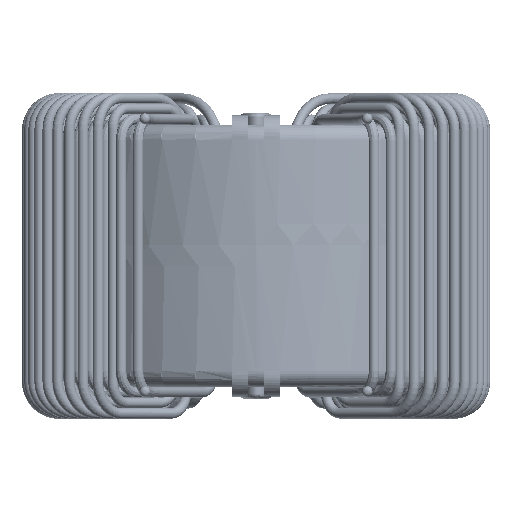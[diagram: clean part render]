
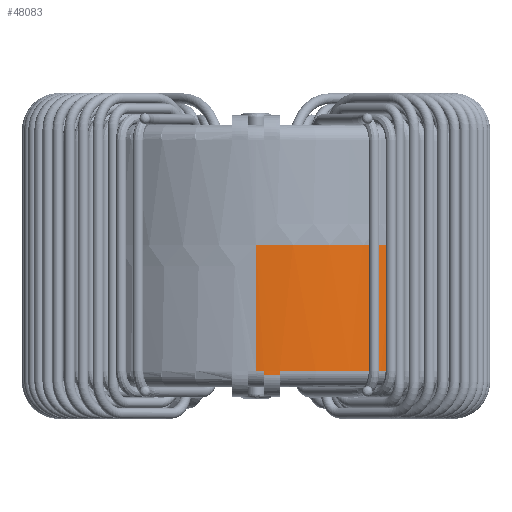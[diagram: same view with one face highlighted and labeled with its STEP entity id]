
A CAD part, top view. The second image highlights one B-rep face of the part: STEP entity #48083.
In plain terms, the highlighted cylindrical face has radius 10.053 mm (diameter 20.106 mm), a partial arc.
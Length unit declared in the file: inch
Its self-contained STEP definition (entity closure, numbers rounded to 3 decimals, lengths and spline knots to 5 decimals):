
#1760 = EDGE_CURVE ( 'NONE', #21013, #34829, #10732, .T. ) ;
#2291 = CARTESIAN_POINT ( 'NONE',  ( 0., 0.24359, -0.39579 ) ) ;
#3947 = LINE ( 'NONE', #2291, #34506 ) ;
#4058 = AXIS2_PLACEMENT_3D ( 'NONE', #59749, #63126, #64843 ) ;
#5142 = AXIS2_PLACEMENT_3D ( 'NONE', #12961, #72053, #75554 ) ;
#6831 = DIRECTION ( 'NONE',  ( 0., -1., 0. ) ) ;
#9874 = VECTOR ( 'NONE', #49337, 39.37008 ) ;
#9901 = EDGE_CURVE ( 'NONE', #35635, #19866, #71191, .T. ) ;
#9982 = VECTOR ( 'NONE', #82558, 39.37008 ) ;
#10732 = LINE ( 'NONE', #58031, #36166 ) ;
#11044 = DIRECTION ( 'NONE',  ( 0., 0., 1. ) ) ;
#12167 = ORIENTED_EDGE ( 'NONE', *, *, #47956, .F. ) ;
#12961 = CARTESIAN_POINT ( 'NONE',  ( 0., 0.02008, 0. ) ) ;
#13868 = LINE ( 'NONE', #66240, #9874 ) ;
#13990 = CARTESIAN_POINT ( 'NONE',  ( 0., -0.22146, 0. ) ) ;
#15167 = VECTOR ( 'NONE', #52028, 39.37008 ) ;
#17733 = CARTESIAN_POINT ( 'NONE',  ( 0., 0.02008, 0.39579 ) ) ;
#17931 = DIRECTION ( 'NONE',  ( 0., 0., -1. ) ) ;
#18011 = CIRCLE ( 'NONE', #5142, 0.39579 ) ;
#18065 = VECTOR ( 'NONE', #25608, 39.37008 ) ;
#19866 = VERTEX_POINT ( 'NONE', #54133 ) ;
#21013 = VERTEX_POINT ( 'NONE', #60454 ) ;
#21222 = CARTESIAN_POINT ( 'NONE',  ( 0.04429, -0.22146, 0.39331 ) ) ;
#21239 = CARTESIAN_POINT ( 'NONE',  ( 0., 0.01969, 0.39579 ) ) ;
#22110 = AXIS2_PLACEMENT_3D ( 'NONE', #13990, #42708, #66347 ) ;
#23428 = VERTEX_POINT ( 'NONE', #40174 ) ;
#23454 = CARTESIAN_POINT ( 'NONE',  ( 0., 0.02008, -0.39579 ) ) ;
#25494 = ORIENTED_EDGE ( 'NONE', *, *, #9901, .T. ) ;
#25608 = DIRECTION ( 'NONE',  ( 0., -1., 0. ) ) ;
#27968 = EDGE_CURVE ( 'NONE', #91661, #51738, #38881, .T. ) ;
#31236 = EDGE_CURVE ( 'NONE', #91661, #60292, #18011, .T. ) ;
#31784 = EDGE_CURVE ( 'NONE', #19866, #58916, #62851, .T. ) ;
#33125 = DIRECTION ( 'NONE',  ( 0., 0., 1. ) ) ;
#34506 = VECTOR ( 'NONE', #61414, 39.37008 ) ;
#34829 = VERTEX_POINT ( 'NONE', #94317 ) ;
#35085 = LINE ( 'NONE', #97572, #15167 ) ;
#35552 = EDGE_CURVE ( 'NONE', #99614, #35635, #85493, .T. ) ;
#35635 = VERTEX_POINT ( 'NONE', #87419 ) ;
#36166 = VECTOR ( 'NONE', #39393, 39.37008 ) ;
#36739 = ORIENTED_EDGE ( 'NONE', *, *, #66547, .F. ) ;
#38881 = LINE ( 'NONE', #97976, #57276 ) ;
#39313 = LINE ( 'NONE', #100084, #103347 ) ;
#39393 = DIRECTION ( 'NONE',  ( 0., -1., 0. ) ) ;
#40174 = CARTESIAN_POINT ( 'NONE',  ( 0., 0.01969, -0.39579 ) ) ;
#40178 = EDGE_LOOP ( 'NONE', ( #60849, #99884, #92084, #47570, #25494, #66245, #36739, #48158, #76289, #81022, #46105, #103551, #12167, #50501 ) ) ;
#40285 = CARTESIAN_POINT ( 'NONE',  ( 0., 0.24359, -0.39579 ) ) ;
#42043 = AXIS2_PLACEMENT_3D ( 'NONE', #66735, #70127, #11044 ) ;
#42708 = DIRECTION ( 'NONE',  ( 0., 1., 0. ) ) ;
#42832 = EDGE_CURVE ( 'NONE', #68295, #34829, #55206, .T. ) ;
#46105 = ORIENTED_EDGE ( 'NONE', *, *, #1760, .F. ) ;
#47570 = ORIENTED_EDGE ( 'NONE', *, *, #35552, .T. ) ;
#47956 = EDGE_CURVE ( 'NONE', #23428, #101785, #3947, .T. ) ;
#48083 = ADVANCED_FACE ( 'NONE', ( #51758 ), #88934, .T. ) ;
#48158 = ORIENTED_EDGE ( 'NONE', *, *, #59880, .T. ) ;
#48805 = EDGE_CURVE ( 'NONE', #51738, #99614, #13868, .T. ) ;
#49337 = DIRECTION ( 'NONE',  ( 0., -1., 0. ) ) ;
#50177 = DIRECTION ( 'NONE',  ( 0., 1., 0. ) ) ;
#50501 = ORIENTED_EDGE ( 'NONE', *, *, #52747, .F. ) ;
#51738 = VERTEX_POINT ( 'NONE', #21239 ) ;
#51758 = FACE_OUTER_BOUND ( 'NONE', #40178, .T. ) ;
#52028 = DIRECTION ( 'NONE',  ( 0., -1., 0. ) ) ;
#52747 = EDGE_CURVE ( 'NONE', #60292, #23428, #84220, .T. ) ;
#54133 = CARTESIAN_POINT ( 'NONE',  ( 0.01476, -0.22146, 0.39552 ) ) ;
#55054 = DIRECTION ( 'NONE',  ( 0., 1., 0. ) ) ;
#55206 = CIRCLE ( 'NONE', #75250, 0.39579 ) ;
#57276 = VECTOR ( 'NONE', #6831, 39.37008 ) ;
#58031 = CARTESIAN_POINT ( 'NONE',  ( 0.01476, 0.26083, -0.39552 ) ) ;
#58916 = VERTEX_POINT ( 'NONE', #21222 ) ;
#59749 = CARTESIAN_POINT ( 'NONE',  ( 0., -0.21406, 0. ) ) ;
#59880 = EDGE_CURVE ( 'NONE', #67364, #101262, #64078, .T. ) ;
#60292 = VERTEX_POINT ( 'NONE', #23454 ) ;
#60454 = CARTESIAN_POINT ( 'NONE',  ( 0.01476, -0.21406, -0.39552 ) ) ;
#60806 = CIRCLE ( 'NONE', #42043, 0.39579 ) ;
#60849 = ORIENTED_EDGE ( 'NONE', *, *, #31236, .F. ) ;
#61414 = DIRECTION ( 'NONE',  ( 0., -1., 0. ) ) ;
#62851 = CIRCLE ( 'NONE', #22110, 0.39579 ) ;
#63126 = DIRECTION ( 'NONE',  ( 0., 1., 0. ) ) ;
#64078 = CIRCLE ( 'NONE', #86085, 0.39579 ) ;
#64506 = CARTESIAN_POINT ( 'NONE',  ( 0.01476, 0.26083, 0.39552 ) ) ;
#64843 = DIRECTION ( 'NONE',  ( 0., 0., 1. ) ) ;
#65489 = EDGE_CURVE ( 'NONE', #101262, #68295, #35085, .T. ) ;
#66240 = CARTESIAN_POINT ( 'NONE',  ( 0., 0.24359, 0.39579 ) ) ;
#66245 = ORIENTED_EDGE ( 'NONE', *, *, #31784, .T. ) ;
#66347 = DIRECTION ( 'NONE',  ( 0., 0., -1. ) ) ;
#66547 = EDGE_CURVE ( 'NONE', #67364, #58916, #39313, .T. ) ;
#66735 = CARTESIAN_POINT ( 'NONE',  ( 0., -0.21406, 0. ) ) ;
#66940 = CARTESIAN_POINT ( 'NONE',  ( 0., 0.24359, 0. ) ) ;
#67364 = VERTEX_POINT ( 'NONE', #102008 ) ;
#68295 = VERTEX_POINT ( 'NONE', #70546 ) ;
#70127 = DIRECTION ( 'NONE',  ( 0., 1., 0. ) ) ;
#70546 = CARTESIAN_POINT ( 'NONE',  ( 0.04429, -0.22146, -0.39331 ) ) ;
#71191 = LINE ( 'NONE', #64506, #18065 ) ;
#72053 = DIRECTION ( 'NONE',  ( 0., 1., 0. ) ) ;
#75250 = AXIS2_PLACEMENT_3D ( 'NONE', #95739, #50177, #102541 ) ;
#75554 = DIRECTION ( 'NONE',  ( 0., 0., 1. ) ) ;
#76289 = ORIENTED_EDGE ( 'NONE', *, *, #65489, .T. ) ;
#81022 = ORIENTED_EDGE ( 'NONE', *, *, #42832, .T. ) ;
#82558 = DIRECTION ( 'NONE',  ( 0., -1., 0. ) ) ;
#84220 = LINE ( 'NONE', #40285, #9982 ) ;
#84998 = DIRECTION ( 'NONE',  ( 0., -1., 0. ) ) ;
#85493 = CIRCLE ( 'NONE', #4058, 0.39579 ) ;
#86085 = AXIS2_PLACEMENT_3D ( 'NONE', #87150, #55054, #33125 ) ;
#87150 = CARTESIAN_POINT ( 'NONE',  ( 0., -0.21406, 0. ) ) ;
#87419 = CARTESIAN_POINT ( 'NONE',  ( 0.01476, -0.21406, 0.39552 ) ) ;
#88934 = CYLINDRICAL_SURFACE ( 'NONE', #99052, 0.39579 ) ;
#89175 = CARTESIAN_POINT ( 'NONE',  ( 0., -0.21406, 0.39579 ) ) ;
#91299 = EDGE_CURVE ( 'NONE', #21013, #101785, #60806, .T. ) ;
#91661 = VERTEX_POINT ( 'NONE', #17733 ) ;
#92084 = ORIENTED_EDGE ( 'NONE', *, *, #48805, .T. ) ;
#93917 = CARTESIAN_POINT ( 'NONE',  ( 0., -0.21406, -0.39579 ) ) ;
#94317 = CARTESIAN_POINT ( 'NONE',  ( 0.01476, -0.22146, -0.39552 ) ) ;
#95739 = CARTESIAN_POINT ( 'NONE',  ( 0., -0.22146, 0. ) ) ;
#96754 = CARTESIAN_POINT ( 'NONE',  ( 0.04429, -0.21406, -0.39331 ) ) ;
#97318 = DIRECTION ( 'NONE',  ( 0., -1., 0. ) ) ;
#97572 = CARTESIAN_POINT ( 'NONE',  ( 0.04429, 0.26083, -0.39331 ) ) ;
#97976 = CARTESIAN_POINT ( 'NONE',  ( 0., 0.24359, 0.39579 ) ) ;
#99052 = AXIS2_PLACEMENT_3D ( 'NONE', #66940, #97318, #17931 ) ;
#99614 = VERTEX_POINT ( 'NONE', #89175 ) ;
#99884 = ORIENTED_EDGE ( 'NONE', *, *, #27968, .T. ) ;
#100084 = CARTESIAN_POINT ( 'NONE',  ( 0.04429, 0.26083, 0.39331 ) ) ;
#101262 = VERTEX_POINT ( 'NONE', #96754 ) ;
#101785 = VERTEX_POINT ( 'NONE', #93917 ) ;
#102008 = CARTESIAN_POINT ( 'NONE',  ( 0.04429, -0.21406, 0.39331 ) ) ;
#102541 = DIRECTION ( 'NONE',  ( 0., 0., 1. ) ) ;
#103347 = VECTOR ( 'NONE', #84998, 39.37008 ) ;
#103551 = ORIENTED_EDGE ( 'NONE', *, *, #91299, .T. ) ;
